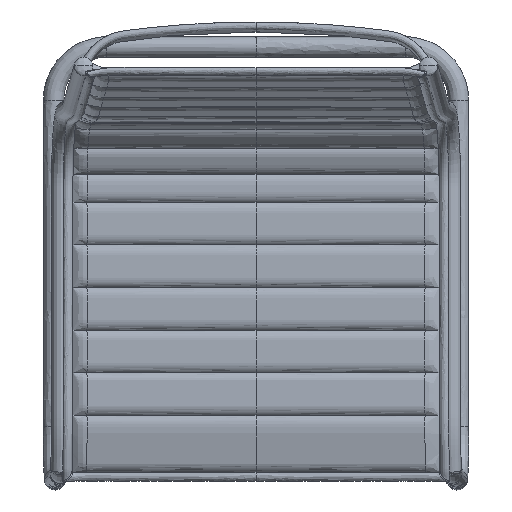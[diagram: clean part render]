
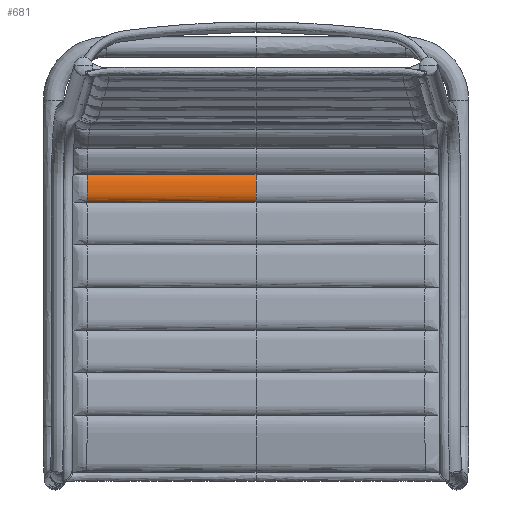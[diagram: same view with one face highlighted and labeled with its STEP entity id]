
A CAD part, top view. The second image highlights one B-rep face of the part: STEP entity #681.
In plain terms, the highlighted free-form (B-spline) face has degree [1, 3] with [2, 22] control points.
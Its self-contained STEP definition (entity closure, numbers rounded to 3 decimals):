
#29=B_SPLINE_SURFACE_WITH_KNOTS('',1,3,((#10014,#10015,#10016,#10017,#10018,
#10019,#10020,#10021,#10022,#10023,#10024,#10025,#10026,#10027,#10028,#10029,
#10030,#10031,#10032,#10033,#10034,#10035),(#10036,#10037,#10038,#10039,
#10040,#10041,#10042,#10043,#10044,#10045,#10046,#10047,#10048,#10049,#10050,
#10051,#10052,#10053,#10054,#10055,#10056,#10057)),.UNSPECIFIED.,.F.,.F.,
 .F.,(2,2),(4,3,3,3,3,3,3,4),(0.,266.163),(0.,4.786,
9.818,15.612,19.005,22.423,27.882,
37.45),.UNSPECIFIED.);
#681=ADVANCED_FACE('',(#941),#29,.T.);
#941=FACE_OUTER_BOUND('',#1203,.T.);
#1203=EDGE_LOOP('',(#2077,#2078,#2079,#2080));
#2077=ORIENTED_EDGE('',*,*,#2841,.T.);
#2078=ORIENTED_EDGE('',*,*,#2839,.T.);
#2079=ORIENTED_EDGE('',*,*,#2840,.F.);
#2080=ORIENTED_EDGE('',*,*,#2842,.F.);
#2839=EDGE_CURVE('',#3645,#3644,#3189,.T.);
#2840=EDGE_CURVE('',#3646,#3644,#3190,.T.);
#2841=EDGE_CURVE('',#3647,#3645,#3191,.T.);
#2842=EDGE_CURVE('',#3647,#3646,#3192,.T.);
#3189=B_SPLINE_CURVE_WITH_KNOTS('',1,(#15668,#15669),.UNSPECIFIED.,.F.,
 .F.,(2,2),(-206.185,0.),.UNSPECIFIED.);
#3190=B_SPLINE_CURVE_WITH_KNOTS('',3,(#15670,#15671,#15672,#15673,#15674,
#15675,#15676,#15677,#15678,#15679,#15680,#15681,#15682,#15683,#15684,#15685,
#15686,#15687,#15688,#15689,#15690,#15691),.UNSPECIFIED.,.F.,.F.,(4,3,3,
3,3,3,3,4),(0.,4.786,9.818,15.612,19.005,
22.423,27.882,37.45),.UNSPECIFIED.);
#3191=B_SPLINE_CURVE_WITH_KNOTS('',3,(#15692,#15693,#15694,#15695,#15696,
#15697,#15698,#15699,#15700,#15701,#15702,#15703,#15704,#15705,#15706,#15707,
#15708,#15709,#15710,#15711,#15712,#15713),.UNSPECIFIED.,.F.,.F.,(4,3,3,
3,3,3,3,4),(0.,4.781,9.811,15.605,18.997,
22.415,27.875,37.437),.UNSPECIFIED.);
#3192=B_SPLINE_CURVE_WITH_KNOTS('',1,(#15714,#15715),.UNSPECIFIED.,.F.,
 .F.,(2,2),(-206.288,0.),.UNSPECIFIED.);
#3644=VERTEX_POINT('',#15030);
#3645=VERTEX_POINT('',#15031);
#3646=VERTEX_POINT('',#15032);
#3647=VERTEX_POINT('',#15033);
#10014=CARTESIAN_POINT('',(-206.288,76.598,445.211));
#10015=CARTESIAN_POINT('',(-206.201,77.578,446.455));
#10016=CARTESIAN_POINT('',(-206.125,78.783,447.525));
#10017=CARTESIAN_POINT('',(-206.065,80.14,448.345));
#10018=CARTESIAN_POINT('',(-206.002,81.568,449.209));
#10019=CARTESIAN_POINT('',(-205.958,83.16,449.794));
#10020=CARTESIAN_POINT('',(-205.929,84.787,450.147));
#10021=CARTESIAN_POINT('',(-205.896,86.674,450.558));
#10022=CARTESIAN_POINT('',(-205.883,88.61,450.658));
#10023=CARTESIAN_POINT('',(-205.88,90.534,450.613));
#10024=CARTESIAN_POINT('',(-205.879,91.664,450.586));
#10025=CARTESIAN_POINT('',(-205.881,92.793,450.51));
#10026=CARTESIAN_POINT('',(-205.88,93.923,450.468));
#10027=CARTESIAN_POINT('',(-205.88,95.061,450.426));
#10028=CARTESIAN_POINT('',(-205.877,96.201,450.419));
#10029=CARTESIAN_POINT('',(-205.877,97.339,450.374));
#10030=CARTESIAN_POINT('',(-205.876,99.152,450.301));
#10031=CARTESIAN_POINT('',(-205.882,100.969,450.131));
#10032=CARTESIAN_POINT('',(-205.906,102.739,449.706));
#10033=CARTESIAN_POINT('',(-205.946,105.786,448.976));
#10034=CARTESIAN_POINT('',(-206.039,108.702,447.489));
#10035=CARTESIAN_POINT('',(-206.185,110.918,445.242));
#10036=CARTESIAN_POINT('',(59.875,76.598,445.211));
#10037=CARTESIAN_POINT('',(59.962,77.578,446.455));
#10038=CARTESIAN_POINT('',(60.038,78.783,447.525));
#10039=CARTESIAN_POINT('',(60.098,80.14,448.345));
#10040=CARTESIAN_POINT('',(60.161,81.568,449.209));
#10041=CARTESIAN_POINT('',(60.205,83.16,449.794));
#10042=CARTESIAN_POINT('',(60.234,84.787,450.147));
#10043=CARTESIAN_POINT('',(60.268,86.674,450.558));
#10044=CARTESIAN_POINT('',(60.28,88.61,450.658));
#10045=CARTESIAN_POINT('',(60.283,90.534,450.613));
#10046=CARTESIAN_POINT('',(60.284,91.664,450.586));
#10047=CARTESIAN_POINT('',(60.282,92.793,450.51));
#10048=CARTESIAN_POINT('',(60.283,93.923,450.468));
#10049=CARTESIAN_POINT('',(60.283,95.061,450.426));
#10050=CARTESIAN_POINT('',(60.286,96.201,450.419));
#10051=CARTESIAN_POINT('',(60.287,97.339,450.374));
#10052=CARTESIAN_POINT('',(60.287,99.152,450.301));
#10053=CARTESIAN_POINT('',(60.281,100.969,450.131));
#10054=CARTESIAN_POINT('',(60.257,102.739,449.706));
#10055=CARTESIAN_POINT('',(60.217,105.786,448.976));
#10056=CARTESIAN_POINT('',(60.124,108.702,447.489));
#10057=CARTESIAN_POINT('',(59.978,110.918,445.242));
#15030=CARTESIAN_POINT('',(-206.185,110.918,445.242));
#15031=CARTESIAN_POINT('',(0.,110.918,445.242));
#15032=CARTESIAN_POINT('',(-206.288,76.598,445.211));
#15033=CARTESIAN_POINT('',(0.,76.598,445.211));
#15668=CARTESIAN_POINT('',(0.,110.918,445.242));
#15669=CARTESIAN_POINT('',(-206.185,110.918,445.242));
#15670=CARTESIAN_POINT('',(-206.288,76.598,445.211));
#15671=CARTESIAN_POINT('',(-206.201,77.578,446.455));
#15672=CARTESIAN_POINT('',(-206.125,78.783,447.525));
#15673=CARTESIAN_POINT('',(-206.065,80.14,448.345));
#15674=CARTESIAN_POINT('',(-206.002,81.568,449.209));
#15675=CARTESIAN_POINT('',(-205.958,83.16,449.794));
#15676=CARTESIAN_POINT('',(-205.929,84.787,450.147));
#15677=CARTESIAN_POINT('',(-205.896,86.674,450.558));
#15678=CARTESIAN_POINT('',(-205.883,88.61,450.658));
#15679=CARTESIAN_POINT('',(-205.88,90.534,450.613));
#15680=CARTESIAN_POINT('',(-205.879,91.664,450.586));
#15681=CARTESIAN_POINT('',(-205.881,92.793,450.51));
#15682=CARTESIAN_POINT('',(-205.88,93.923,450.468));
#15683=CARTESIAN_POINT('',(-205.88,95.061,450.426));
#15684=CARTESIAN_POINT('',(-205.877,96.201,450.419));
#15685=CARTESIAN_POINT('',(-205.877,97.339,450.374));
#15686=CARTESIAN_POINT('',(-205.876,99.152,450.301));
#15687=CARTESIAN_POINT('',(-205.882,100.969,450.131));
#15688=CARTESIAN_POINT('',(-205.906,102.739,449.706));
#15689=CARTESIAN_POINT('',(-205.946,105.786,448.976));
#15690=CARTESIAN_POINT('',(-206.039,108.702,447.489));
#15691=CARTESIAN_POINT('',(-206.185,110.918,445.242));
#15692=CARTESIAN_POINT('',(0.,76.598,445.211));
#15693=CARTESIAN_POINT('',(0.,77.578,446.456));
#15694=CARTESIAN_POINT('',(0.,78.784,447.525));
#15695=CARTESIAN_POINT('',(0.,80.14,448.345));
#15696=CARTESIAN_POINT('',(0.,81.569,449.209));
#15697=CARTESIAN_POINT('',(0.,83.161,449.794));
#15698=CARTESIAN_POINT('',(0.,84.787,450.147));
#15699=CARTESIAN_POINT('',(0.,86.674,450.558));
#15700=CARTESIAN_POINT('',(0.,88.611,450.658));
#15701=CARTESIAN_POINT('',(0.,90.534,450.613));
#15702=CARTESIAN_POINT('',(0.,91.664,450.586));
#15703=CARTESIAN_POINT('',(0.,92.793,450.51));
#15704=CARTESIAN_POINT('',(0.,93.923,450.468));
#15705=CARTESIAN_POINT('',(0.,95.061,450.426));
#15706=CARTESIAN_POINT('',(0.,96.201,450.419));
#15707=CARTESIAN_POINT('',(0.,97.339,450.374));
#15708=CARTESIAN_POINT('',(0.,99.152,450.301));
#15709=CARTESIAN_POINT('',(0.,100.969,450.131));
#15710=CARTESIAN_POINT('',(0.,102.739,449.706));
#15711=CARTESIAN_POINT('',(0.,105.784,448.976));
#15712=CARTESIAN_POINT('',(0.,108.701,447.49));
#15713=CARTESIAN_POINT('',(0.,110.918,445.242));
#15714=CARTESIAN_POINT('',(0.,76.598,445.211));
#15715=CARTESIAN_POINT('',(-206.288,76.598,445.211));
